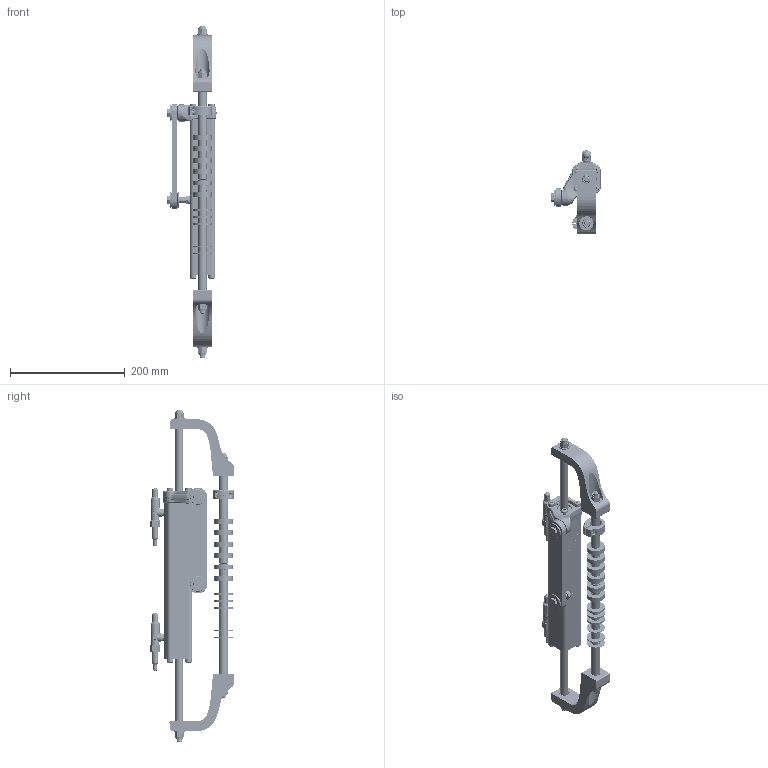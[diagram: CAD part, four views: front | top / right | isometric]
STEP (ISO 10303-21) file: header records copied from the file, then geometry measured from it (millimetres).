
FILE_DESCRIPTION(/* description */ (''),/* implementation_level */ '2;1');
FILE_NAME(/* name */ 'C:\Users\a.melotti\Desktop\29081 COMPLESSIVO ASSEMBLATO UC81-OBF.stp',/* time_stamp */ '2020-08-05T08:47:10+02:00',/* author */ ('a.melotti'),/* organization */ (''),/* preprocessor_version */ 'ST-DEVELOPER v18',/* originating_system */ 'Autodesk Inventor 2020',/* authorisation */ '');
FILE_SCHEMA (('AUTOMOTIVE_DESIGN { 1 0 10303 214 3 1 1 }'));
Products named in the file (64): 29081 COMPLESSIVO ASSEMBLATO UC81-OBF; PARTE FISSA; 29111; 29178; 29852; 29287; 29169; 29606; 29736; 29737; 20720; 8115; 29613 COMPLESSIVO SACCHETTO DADI RONDELLE ASTE UC86; 1256; 29766; 29676; 29150; 3848; 8231; PARTE MOBILE; 29107; RACCORDO COMPLETO ULTRAFLEX 1-4 NPT; 29426; 22588; 5260; 18820; 18823; 25107; Complessivo testata; 29095; 29288; 18328; 29851; 18048; 29506; 29517; 29692; 30075; 30076; COMPLESSIVO CON BOCCOLE LA UC86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
Assembly tree (112 placements, depth 5):
  29081 COMPLESSIVO ASSEMBLATO UC81-OBF
    PARTE FISSA
      29111
      29178  x2
      29852
      29287
      29169
      29606
        29736
        29737
        20720  x2
        8115
        29613 COMPLESSIVO SACCHETTO DADI RONDELLE ASTE UC86
          29676  x2
          1256  x2
          8231
        29766
      29676  x2
      29150  x2
      3848  x2
      8231
    PARTE MOBILE
      29107
      RACCORDO COMPLETO ULTRAFLEX 1-4 NPT  x2
        29426
        22588
        5260
        18820
        18823
        25107
      Complessivo testata  x2
        29095
        29288
        18328
        29851
      18048
      29506
      29517
      29692
      30076  x8
      30075  x8
      31198   x8
    29181
    COMPLESSIVO CON BOCCOLE LA UC86
      29477
      29182  x4
      29183  x4
    29612
      29181
      809
      9601
    29574
      20847
      21338
      21339
      8139
      18135  x6
      18136  x3
      18982
      18134  x2
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Bounding box: 85.95 x 147.31 x 579.93 mm (x, y, z)
Volume: 969178.6 mm3; surface area: 347783.5 mm2
Topology: 113 solids, 113 shells, 12780 faces, 33858 edges, 22361 vertices
Faces by surface type: plane 6151, bspline 5130, cylinder 686, cone 436, torus 333, sphere 44
Full cylindrical faces by diameter (mm): 0.4 x2, 1.5 x4, 3.2 x2, 4.089 x1, 4.826 x2, 4.9 x2, 4.917 x8, 5.2 x2, 5.6 x1, 5.7 x2, 6 x10, 6.1 x8, 6.4 x8, 6.5 x4, 6.7 x6, 7.2 x4, 7.925 x1, 8 x6, 8.05 x2, 8.2 x1, 8.382 x1, 8.611 x5, 8.7 x8, 8.8 x4, 9.4 x2, 9.5 x4, 9.525 x11, 9.6 x4, 9.7 x4, 9.8 x4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
Entity records: 407693 total; most frequent: CARTESIAN_POINT 132306, ORIENTED_EDGE 63184, DIRECTION 37201, EDGE_CURVE 31592, VERTEX_POINT 20959, LINE 19469, VECTOR 19469, EDGE_LOOP 13091
